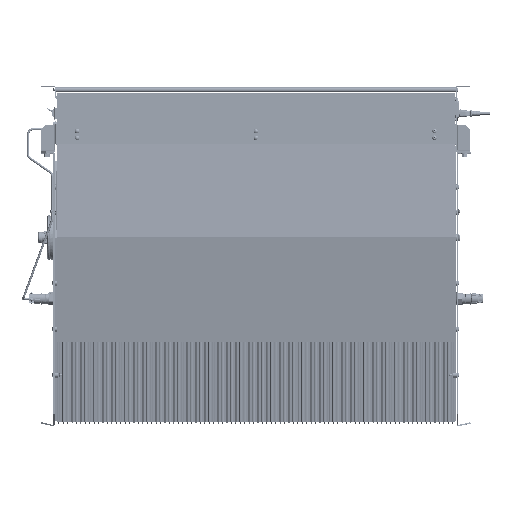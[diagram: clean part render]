
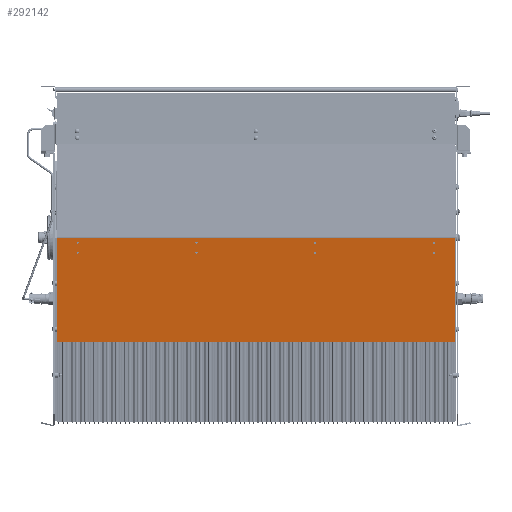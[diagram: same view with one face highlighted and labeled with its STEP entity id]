
A CAD part, top view. The second image highlights one B-rep face of the part: STEP entity #292142.
In plain terms, the highlighted planar face has unit normal (0, -0.156, 0.988).
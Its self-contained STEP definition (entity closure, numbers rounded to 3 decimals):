
#20848=PLANE('',#378055);
#26910=CIRCLE('',#378056,0.099);
#26911=CIRCLE('',#378057,0.099);
#26912=CIRCLE('',#378058,0.099);
#26913=CIRCLE('',#378059,0.099);
#26914=CIRCLE('',#378060,0.099);
#26915=CIRCLE('',#378061,0.099);
#26916=CIRCLE('',#378062,0.099);
#26917=CIRCLE('',#378063,0.099);
#108448=ORIENTED_EDGE('',*,*,#153836,.F.);
#108449=ORIENTED_EDGE('',*,*,#153837,.F.);
#108450=ORIENTED_EDGE('',*,*,#153838,.F.);
#108451=ORIENTED_EDGE('',*,*,#153839,.F.);
#108452=ORIENTED_EDGE('',*,*,#153840,.F.);
#108453=ORIENTED_EDGE('',*,*,#153841,.F.);
#108454=ORIENTED_EDGE('',*,*,#153842,.F.);
#108455=ORIENTED_EDGE('',*,*,#153843,.F.);
#108456=ORIENTED_EDGE('',*,*,#153816,.F.);
#108457=ORIENTED_EDGE('',*,*,#153826,.F.);
#108458=ORIENTED_EDGE('',*,*,#153823,.F.);
#108459=ORIENTED_EDGE('',*,*,#153820,.F.);
#153816=EDGE_CURVE('',#185571,#185572,#214040,.T.);
#153820=EDGE_CURVE('',#185572,#185575,#214044,.T.);
#153823=EDGE_CURVE('',#185575,#185577,#214047,.T.);
#153826=EDGE_CURVE('',#185577,#185571,#214050,.T.);
#153836=EDGE_CURVE('',#185587,#185587,#26910,.T.);
#153837=EDGE_CURVE('',#185588,#185588,#26911,.T.);
#153838=EDGE_CURVE('',#185589,#185589,#26912,.T.);
#153839=EDGE_CURVE('',#185590,#185590,#26913,.T.);
#153840=EDGE_CURVE('',#185591,#185591,#26914,.T.);
#153841=EDGE_CURVE('',#185592,#185592,#26915,.T.);
#153842=EDGE_CURVE('',#185593,#185593,#26916,.T.);
#153843=EDGE_CURVE('',#185594,#185594,#26917,.T.);
#185571=VERTEX_POINT('',#712553);
#185572=VERTEX_POINT('',#712554);
#185575=VERTEX_POINT('',#712562);
#185577=VERTEX_POINT('',#712568);
#185587=VERTEX_POINT('',#712594);
#185588=VERTEX_POINT('',#712596);
#185589=VERTEX_POINT('',#712598);
#185590=VERTEX_POINT('',#712600);
#185591=VERTEX_POINT('',#712602);
#185592=VERTEX_POINT('',#712604);
#185593=VERTEX_POINT('',#712606);
#185594=VERTEX_POINT('',#712608);
#214040=LINE('',#712552,#241238);
#214044=LINE('',#712561,#241242);
#214047=LINE('',#712567,#241245);
#214050=LINE('',#712573,#241248);
#241238=VECTOR('',#444483,39.37);
#241242=VECTOR('',#444489,39.37);
#241245=VECTOR('',#444494,39.37);
#241248=VECTOR('',#444499,39.37);
#257586=EDGE_LOOP('',(#108448));
#257587=EDGE_LOOP('',(#108449));
#257588=EDGE_LOOP('',(#108450));
#257589=EDGE_LOOP('',(#108451));
#257590=EDGE_LOOP('',(#108452));
#257591=EDGE_LOOP('',(#108453));
#257592=EDGE_LOOP('',(#108454));
#257593=EDGE_LOOP('',(#108455));
#257594=EDGE_LOOP('',(#108456,#108457,#108458,#108459));
#274879=FACE_BOUND('',#257586,.T.);
#274880=FACE_BOUND('',#257587,.T.);
#274881=FACE_BOUND('',#257588,.T.);
#274882=FACE_BOUND('',#257589,.T.);
#274883=FACE_BOUND('',#257590,.T.);
#274884=FACE_BOUND('',#257591,.T.);
#274885=FACE_BOUND('',#257592,.T.);
#274886=FACE_BOUND('',#257593,.T.);
#274887=FACE_BOUND('',#257594,.T.);
#292142=ADVANCED_FACE('',(#274879,#274880,#274881,#274882,#274883,#274884,
#274885,#274886,#274887),#20848,.F.);
#378055=AXIS2_PLACEMENT_3D('',#712592,#444519,#444520);
#378056=AXIS2_PLACEMENT_3D('',#712593,#444521,#444522);
#378057=AXIS2_PLACEMENT_3D('',#712595,#444523,#444524);
#378058=AXIS2_PLACEMENT_3D('',#712597,#444525,#444526);
#378059=AXIS2_PLACEMENT_3D('',#712599,#444527,#444528);
#378060=AXIS2_PLACEMENT_3D('',#712601,#444529,#444530);
#378061=AXIS2_PLACEMENT_3D('',#712603,#444531,#444532);
#378062=AXIS2_PLACEMENT_3D('',#712605,#444533,#444534);
#378063=AXIS2_PLACEMENT_3D('',#712607,#444535,#444536);
#444483=DIRECTION('',(0.,0.988,0.156));
#444489=DIRECTION('',(1.,0.,0.));
#444494=DIRECTION('',(0.,-0.988,-0.156));
#444499=DIRECTION('',(-1.,0.,0.));
#444519=DIRECTION('',(0.,0.156,-0.988));
#444520=DIRECTION('',(0.,-0.988,-0.156));
#444521=DIRECTION('',(0.,-0.156,0.988));
#444522=DIRECTION('',(-1.,0.,0.));
#444523=DIRECTION('',(0.,-0.156,0.988));
#444524=DIRECTION('',(-1.,0.,0.));
#444525=DIRECTION('',(0.,-0.156,0.988));
#444526=DIRECTION('',(-1.,0.,0.));
#444527=DIRECTION('',(0.,-0.156,0.988));
#444528=DIRECTION('',(-1.,0.,0.));
#444529=DIRECTION('',(0.,-0.156,0.988));
#444530=DIRECTION('',(-1.,0.,0.));
#444531=DIRECTION('',(0.,-0.156,0.988));
#444532=DIRECTION('',(-1.,0.,0.));
#444533=DIRECTION('',(0.,-0.156,0.988));
#444534=DIRECTION('',(-1.,0.,0.));
#444535=DIRECTION('',(0.,-0.156,0.988));
#444536=DIRECTION('',(-1.,0.,0.));
#712552=CARTESIAN_POINT('',(0.125,-19.307,-0.984));
#712553=CARTESIAN_POINT('',(0.125,-19.307,-0.984));
#712554=CARTESIAN_POINT('',(0.125,-9.122,0.629));
#712561=CARTESIAN_POINT('',(0.125,-9.122,0.629));
#712562=CARTESIAN_POINT('',(39.125,-9.122,0.629));
#712567=CARTESIAN_POINT('',(39.125,-9.122,0.629));
#712568=CARTESIAN_POINT('',(39.125,-19.307,-0.984));
#712573=CARTESIAN_POINT('',(39.125,-19.307,-0.984));
#712592=CARTESIAN_POINT('',(19.625,-14.214,-0.177));
#712593=CARTESIAN_POINT('',(2.188,-10.603,0.395));
#712594=CARTESIAN_POINT('',(2.089,-10.603,0.395));
#712595=CARTESIAN_POINT('',(2.188,-9.615,0.551));
#712596=CARTESIAN_POINT('',(2.089,-9.615,0.551));
#712597=CARTESIAN_POINT('',(13.813,-9.615,0.551));
#712598=CARTESIAN_POINT('',(13.714,-9.615,0.551));
#712599=CARTESIAN_POINT('',(13.813,-10.603,0.395));
#712600=CARTESIAN_POINT('',(13.714,-10.603,0.395));
#712601=CARTESIAN_POINT('',(25.438,-10.603,0.395));
#712602=CARTESIAN_POINT('',(25.339,-10.603,0.395));
#712603=CARTESIAN_POINT('',(25.438,-9.615,0.551));
#712604=CARTESIAN_POINT('',(25.339,-9.615,0.551));
#712605=CARTESIAN_POINT('',(37.063,-9.615,0.551));
#712606=CARTESIAN_POINT('',(36.964,-9.615,0.551));
#712607=CARTESIAN_POINT('',(37.063,-10.603,0.395));
#712608=CARTESIAN_POINT('',(36.964,-10.603,0.395));
